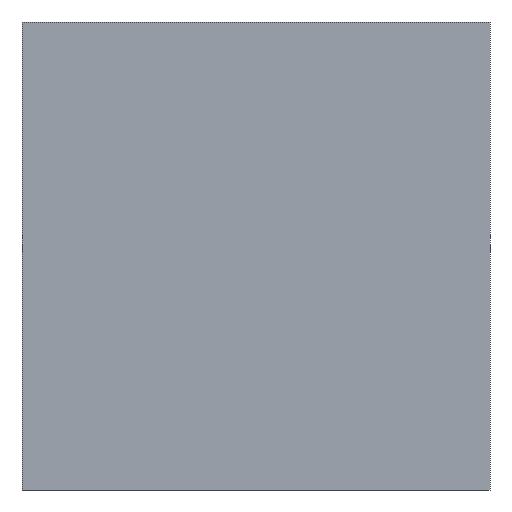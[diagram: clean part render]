
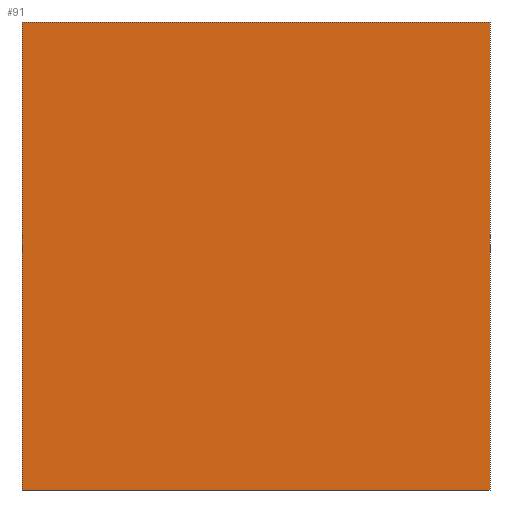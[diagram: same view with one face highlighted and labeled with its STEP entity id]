
A CAD part, front view. The second image highlights one B-rep face of the part: STEP entity #91.
In plain terms, the highlighted planar face has unit normal (0, -1, 0).
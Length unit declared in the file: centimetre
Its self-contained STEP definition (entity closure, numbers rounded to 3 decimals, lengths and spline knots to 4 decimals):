
#18 = EDGE_CURVE ( 'NONE', #84, #289, #314, .T. ) ;
#33 = ORIENTED_EDGE ( 'NONE', *, *, #301, .F. ) ;
#73 = CARTESIAN_POINT ( 'NONE',  ( 1000., 0., 1000. ) ) ;
#74 = CARTESIAN_POINT ( 'NONE',  ( 1000., 0., 1000. ) ) ;
#75 = VECTOR ( 'NONE', #82, 100. ) ;
#82 = DIRECTION ( 'NONE',  ( 1., 0., 0. ) ) ;
#84 = VERTEX_POINT ( 'NONE', #128 ) ;
#91 = ADVANCED_FACE ( 'NONE', ( #296 ), #116, .F. ) ;
#97 = DIRECTION ( 'NONE',  ( 0., 0., -1. ) ) ;
#115 = CARTESIAN_POINT ( 'NONE',  ( 0., 0., 0. ) ) ;
#116 = PLANE ( 'NONE',  #466 ) ;
#125 = VERTEX_POINT ( 'NONE', #74 ) ;
#128 = CARTESIAN_POINT ( 'NONE',  ( 0., 0., 1000. ) ) ;
#162 = DIRECTION ( 'NONE',  ( 0., 1., 0. ) ) ;
#179 = EDGE_CURVE ( 'NONE', #289, #325, #300, .T. ) ;
#192 = DIRECTION ( 'NONE',  ( 0., 0., 1. ) ) ;
#236 = LINE ( 'NONE', #455, #315 ) ;
#240 = VECTOR ( 'NONE', #302, 100. ) ;
#252 = ORIENTED_EDGE ( 'NONE', *, *, #18, .T. ) ;
#284 = EDGE_CURVE ( 'NONE', #125, #325, #336, .T. ) ;
#289 = VERTEX_POINT ( 'NONE', #115 ) ;
#296 = FACE_OUTER_BOUND ( 'NONE', #353, .T. ) ;
#300 = LINE ( 'NONE', #451, #75 ) ;
#301 = EDGE_CURVE ( 'NONE', #84, #125, #236, .T. ) ;
#302 = DIRECTION ( 'NONE',  ( 0., 0., -1. ) ) ;
#304 = CARTESIAN_POINT ( 'NONE',  ( 0., 0., 1000. ) ) ;
#314 = LINE ( 'NONE', #347, #442 ) ;
#315 = VECTOR ( 'NONE', #449, 100. ) ;
#325 = VERTEX_POINT ( 'NONE', #445 ) ;
#336 = LINE ( 'NONE', #73, #240 ) ;
#341 = ORIENTED_EDGE ( 'NONE', *, *, #284, .F. ) ;
#347 = CARTESIAN_POINT ( 'NONE',  ( 0., 0., 1000. ) ) ;
#353 = EDGE_LOOP ( 'NONE', ( #439, #341, #33, #252 ) ) ;
#439 = ORIENTED_EDGE ( 'NONE', *, *, #179, .T. ) ;
#442 = VECTOR ( 'NONE', #97, 100. ) ;
#445 = CARTESIAN_POINT ( 'NONE',  ( 1000., 0., 0. ) ) ;
#449 = DIRECTION ( 'NONE',  ( 1., 0., 0. ) ) ;
#451 = CARTESIAN_POINT ( 'NONE',  ( 0., 0., 0. ) ) ;
#455 = CARTESIAN_POINT ( 'NONE',  ( 0., 0., 1000. ) ) ;
#466 = AXIS2_PLACEMENT_3D ( 'NONE', #304, #162, #192 ) ;
